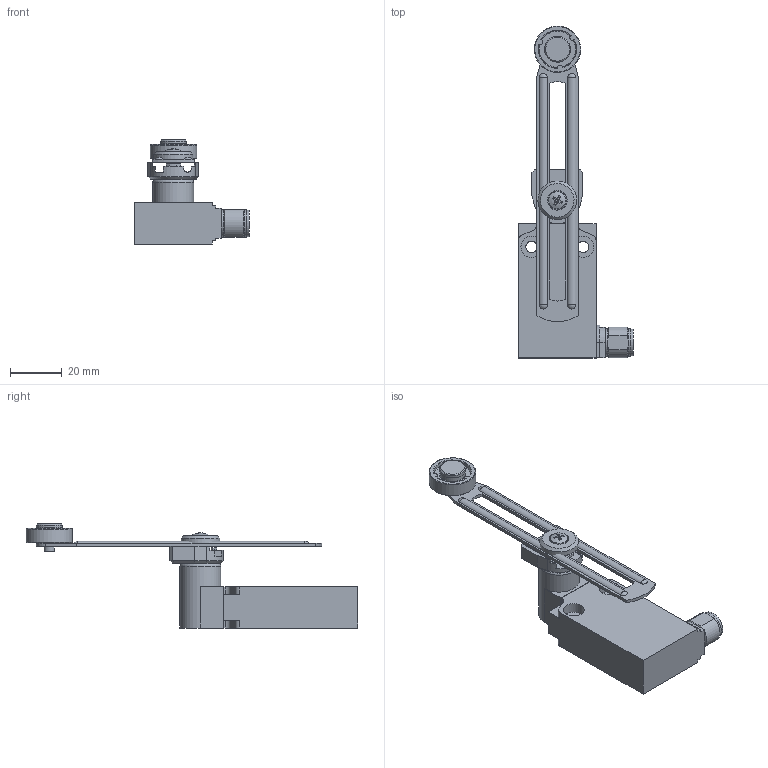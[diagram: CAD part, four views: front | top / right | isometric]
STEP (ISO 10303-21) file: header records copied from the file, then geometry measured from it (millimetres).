
FILE_DESCRIPTION(/* description */ (''),/* implementation_level */ '2;1');
FILE_NAME(/* name */ 'C:\Users\servizio.tecnico\Desktop\BERNSTEIN\3D\STP_EM1_G5140M.stp',/* time_stamp */ '2020-06-26T11:13:50+02:00',/* author */ ('servizio.tecnico'),/* organization */ (''),/* preprocessor_version */ 'ST-DEVELOPER v17',/* originating_system */ 'Autodesk Inventor 2019',/* authorisation */ '');
FILE_SCHEMA (('AUTOMOTIVE_DESIGN { 1 0 10303 214 3 1 1 }'));
Length unit declared in the file: millimetre
Products named in the file (11): STP_EM1_G41M; EM1G41-M; Product; g5120; vi2617pe; to2037pe_2; pl2035pi_2; tr2044pi; to2045pe; pl2049pi_2; fu 4120
Assembly tree (10 placements, depth 3):
  STP_EM1_G41M
    EM1G41-M
      Product
    g5120
      vi2617pe
      to2037pe_2
      pl2035pi_2
      tr2044pi
      to2045pe
      pl2049pi_2
      fu 4120
Bounding box: 44.5 x 128.51 x 40.3 mm (x, y, z)
Volume: 34646.8 mm3; surface area: 15768.7 mm2
Topology: 8 solids, 8 shells, 405 faces, 1113 edges, 739 vertices
Faces by surface type: plane 196, cylinder 160, torus 21, cone 16, sphere 9, bspline 3
Full cylindrical faces by diameter (mm): 2.5 x1, 3.5 x22, 4 x1, 4.1 x2, 4.4 x2, 5 x1, 5.7 x1, 6 x1, 6.1 x1, 7 x1, 7.6 x1, 8.2 x4, 10 x1, 10.3 x1, 10.6 x2, 15 x1, 15.8 x1, 18 x1
Entity records: 16552 total; most frequent: CARTESIAN_POINT 5533, DIRECTION 2275, ORIENTED_EDGE 2204, EDGE_CURVE 1102, AXIS2_PLACEMENT_3D 829, VERTEX_POINT 737, LINE 617, VECTOR 617
